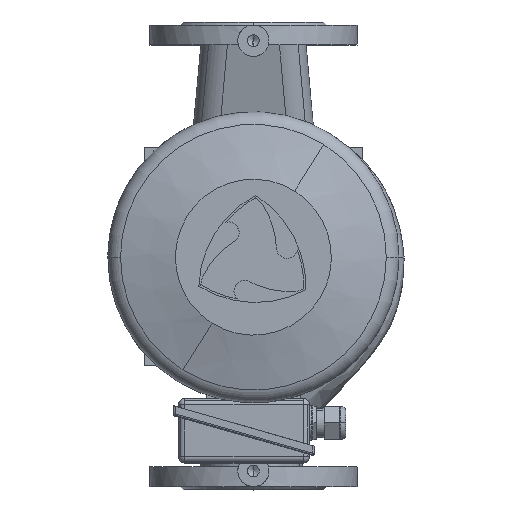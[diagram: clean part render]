
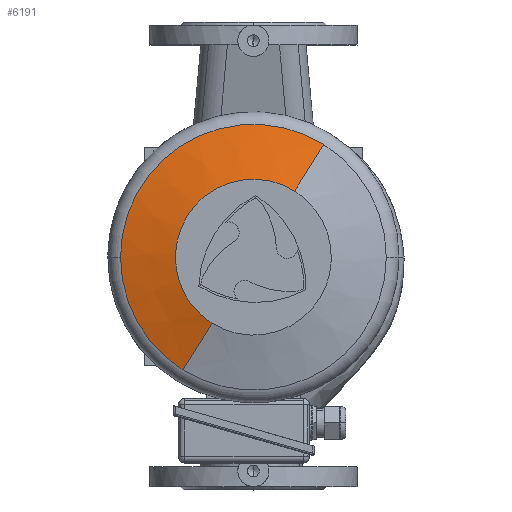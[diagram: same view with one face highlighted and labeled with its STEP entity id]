
A CAD part, top view. The second image highlights one B-rep face of the part: STEP entity #6191.
In plain terms, the highlighted conical face has half-angle 75 degrees and reference radius 101.423 mm.
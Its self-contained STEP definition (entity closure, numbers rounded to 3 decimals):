
#6191=ADVANCED_FACE('',(#12501),#12502,.T.);
#6267=EDGE_CURVE('',#12617,#12618,#12619,.T.);
#6269=EDGE_CURVE('',#12618,#12621,#12622,.T.);
#6271=EDGE_CURVE('',#12624,#12625,#12626,.T.);
#12501=FACE_OUTER_BOUND('',#27524,.T.);
#12502=CONICAL_SURFACE('',#27525,101.423,1.309);
#12617=VERTEX_POINT('',#27641);
#12618=VERTEX_POINT('',#27642);
#12619=CIRCLE('',#27643,127.845);
#12621=VERTEX_POINT('',#27646);
#12622=CIRCLE('',#27647,127.845);
#12624=VERTEX_POINT('',#27650);
#12625=VERTEX_POINT('',#27651);
#12626=CIRCLE('',#27652,75.);
#27524=EDGE_LOOP('',(#36963,#36964,#36965,#36966,#36967));
#27525=AXIS2_PLACEMENT_3D('',#36968,#36969,#36970);
#27641=CARTESIAN_POINT('',(372.711,108.465,-14.16));
#27642=CARTESIAN_POINT('',(177.191,0.,-14.16));
#27643=AXIS2_PLACEMENT_3D('',#37318,#37319,#37320);
#27646=CARTESIAN_POINT('',(237.361,-108.465,-14.16));
#27647=AXIS2_PLACEMENT_3D('',#37321,#37322,#37323);
#27650=CARTESIAN_POINT('',(344.737,63.63,0.));
#27651=CARTESIAN_POINT('',(265.335,-63.63,0.));
#27652=AXIS2_PLACEMENT_3D('',#37324,#37325,#37326);
#36963=ORIENTED_EDGE('',*,*,#40657,.F.);
#36964=ORIENTED_EDGE('',*,*,#6267,.T.);
#36965=ORIENTED_EDGE('',*,*,#6269,.T.);
#36966=ORIENTED_EDGE('',*,*,#40658,.F.);
#36967=ORIENTED_EDGE('',*,*,#6271,.F.);
#36968=CARTESIAN_POINT('',(305.036,0.,-7.08));
#36969=DIRECTION('',(-0.0,0.0,-1.0));
#36970=DIRECTION('',(0.529,0.848,0.0));
#37318=CARTESIAN_POINT('',(305.036,0.,-14.16));
#37319=DIRECTION('',(0.0,-0.0,1.0));
#37320=DIRECTION('',(0.529,0.848,0.0));
#37321=CARTESIAN_POINT('',(305.036,0.,-14.16));
#37322=DIRECTION('',(0.0,-0.0,1.0));
#37323=DIRECTION('',(0.529,0.848,0.0));
#37324=CARTESIAN_POINT('',(305.036,0.,0.));
#37325=DIRECTION('',(0.0,-0.0,1.0));
#37326=DIRECTION('',(0.529,0.848,0.0));
#40657=EDGE_CURVE('',#12617,#12624,#42290,.T.);
#40658=EDGE_CURVE('',#12625,#12621,#42291,.T.);
#42290=LINE('',#46596,#46597);
#42291=LINE('',#46598,#46599);
#46596=CARTESIAN_POINT('',(358.724,86.047,-7.08));
#46597=VECTOR('',#47546,1.0);
#46598=CARTESIAN_POINT('',(251.348,-86.047,-7.08));
#46599=VECTOR('',#47547,1.0);
#47546=DIRECTION('',(-0.511,-0.819,0.259));
#47547=DIRECTION('',(-0.511,-0.819,-0.259));
